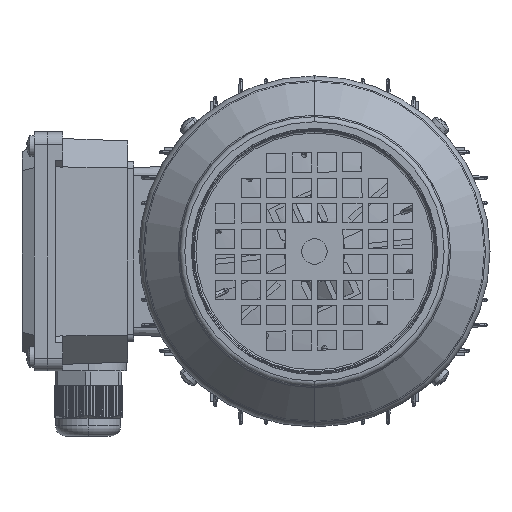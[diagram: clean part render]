
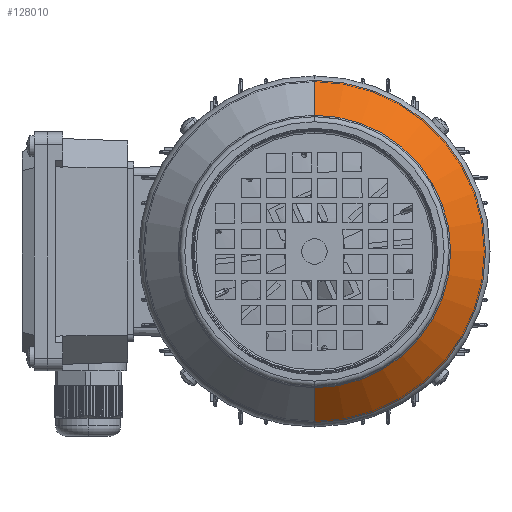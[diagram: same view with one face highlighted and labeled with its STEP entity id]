
A CAD part, left-side view. The second image highlights one B-rep face of the part: STEP entity #128010.
In plain terms, the highlighted conical face has half-angle 45 degrees and reference radius 53.586 mm.
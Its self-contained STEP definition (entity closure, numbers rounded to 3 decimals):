
#2579 = CARTESIAN_POINT ( 'NONE',  ( 124.414, 0., 0. ) ) ;
#3347 = EDGE_CURVE ( 'NONE', #117256, #53325, #110284, .T. ) ;
#4281 = VECTOR ( 'NONE', #63573, 1000. ) ;
#19055 = EDGE_CURVE ( 'NONE', #90575, #117256, #97407, .T. ) ;
#21984 = CARTESIAN_POINT ( 'NONE',  ( 110.707, 0., -67.293 ) ) ;
#22475 = ORIENTED_EDGE ( 'NONE', *, *, #61463, .T. ) ;
#25415 = DIRECTION ( 'NONE',  ( -1., 0., 0. ) ) ;
#28105 = AXIS2_PLACEMENT_3D ( 'NONE', #67159, #25415, #57387 ) ;
#38660 = DIRECTION ( 'NONE',  ( -1., 0., 0. ) ) ;
#53325 = VERTEX_POINT ( 'NONE', #109904 ) ;
#57387 = DIRECTION ( 'NONE',  ( 0., 0., 1. ) ) ;
#57572 = CARTESIAN_POINT ( 'NONE',  ( 124.414, 0., 53.586 ) ) ;
#57883 = AXIS2_PLACEMENT_3D ( 'NONE', #2579, #76972, #120050 ) ;
#59507 = FACE_OUTER_BOUND ( 'NONE', #72381, .T. ) ;
#59793 = CONICAL_SURFACE ( 'NONE', #95364, 53.586, 0.785 ) ;
#61463 = EDGE_CURVE ( 'NONE', #96394, #53325, #85145, .T. ) ;
#63573 = DIRECTION ( 'NONE',  ( -0.707, 0., 0.707 ) ) ;
#67159 = CARTESIAN_POINT ( 'NONE',  ( 110.707, 0., 0. ) ) ;
#70217 = EDGE_CURVE ( 'NONE', #90575, #96394, #88954, .T. ) ;
#71342 = CARTESIAN_POINT ( 'NONE',  ( 124.414, 0., -53.586 ) ) ;
#72010 = ORIENTED_EDGE ( 'NONE', *, *, #70217, .T. ) ;
#72381 = EDGE_LOOP ( 'NONE', ( #85500, #72010, #22475, #111501 ) ) ;
#76972 = DIRECTION ( 'NONE',  ( -1., 0., 0. ) ) ;
#81071 = DIRECTION ( 'NONE',  ( 0., 0., 1. ) ) ;
#81175 = VECTOR ( 'NONE', #118919, 1000. ) ;
#85145 = LINE ( 'NONE', #127543, #4281 ) ;
#85500 = ORIENTED_EDGE ( 'NONE', *, *, #19055, .F. ) ;
#86270 = CARTESIAN_POINT ( 'NONE',  ( 124.414, 0., -53.586 ) ) ;
#88954 = CIRCLE ( 'NONE', #57883, 53.586 ) ;
#90575 = VERTEX_POINT ( 'NONE', #71342 ) ;
#95364 = AXIS2_PLACEMENT_3D ( 'NONE', #101926, #38660, #81071 ) ;
#96394 = VERTEX_POINT ( 'NONE', #57572 ) ;
#97407 = LINE ( 'NONE', #86270, #81175 ) ;
#101926 = CARTESIAN_POINT ( 'NONE',  ( 124.414, 0., 0. ) ) ;
#109904 = CARTESIAN_POINT ( 'NONE',  ( 110.707, 0., 67.293 ) ) ;
#110284 = CIRCLE ( 'NONE', #28105, 67.293 ) ;
#111501 = ORIENTED_EDGE ( 'NONE', *, *, #3347, .F. ) ;
#117256 = VERTEX_POINT ( 'NONE', #21984 ) ;
#118919 = DIRECTION ( 'NONE',  ( -0.707, 0., -0.707 ) ) ;
#120050 = DIRECTION ( 'NONE',  ( 0., 0., 1. ) ) ;
#127543 = CARTESIAN_POINT ( 'NONE',  ( 124.414, 0., 53.586 ) ) ;
#128010 = ADVANCED_FACE ( 'NONE', ( #59507 ), #59793, .T. ) ;
